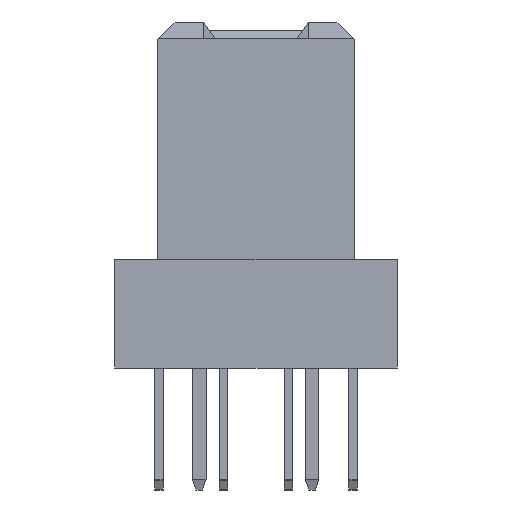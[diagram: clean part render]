
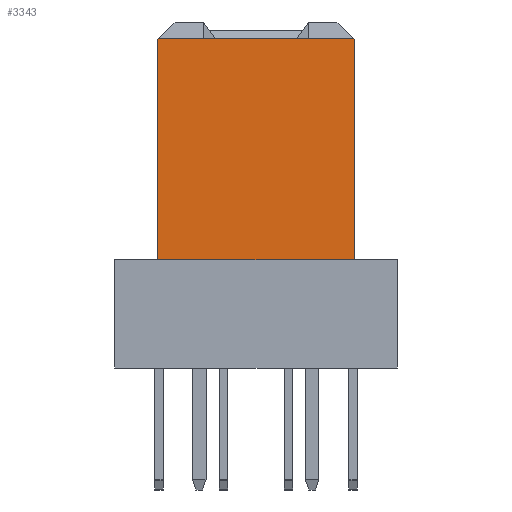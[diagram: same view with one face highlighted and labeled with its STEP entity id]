
A CAD part, left-side view. The second image highlights one B-rep face of the part: STEP entity #3343.
In plain terms, the highlighted planar face has unit normal (-1, 0, 0).
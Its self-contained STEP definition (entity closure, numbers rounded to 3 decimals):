
#426 = VERTEX_POINT ( 'NONE', #3674 ) ;
#442 = DIRECTION ( 'NONE',  ( 0., -1., 0. ) ) ;
#1439 = DIRECTION ( 'NONE',  ( 0., -1., 0. ) ) ;
#2313 = CARTESIAN_POINT ( 'NONE',  ( -48.201, 16.659, -1.905 ) ) ;
#3343 = ADVANCED_FACE ( 'NONE', ( #6019 ), #23150, .F. ) ;
#3674 = CARTESIAN_POINT ( 'NONE',  ( -48.201, 22.449, 4.605 ) ) ;
#3906 = CARTESIAN_POINT ( 'NONE',  ( -48.201, 23.724, -1.905 ) ) ;
#5204 = CARTESIAN_POINT ( 'NONE',  ( -48.201, 16.659, 4.595 ) ) ;
#5470 = LINE ( 'NONE', #24544, #6344 ) ;
#6019 = FACE_OUTER_BOUND ( 'NONE', #19088, .T. ) ;
#6204 = ORIENTED_EDGE ( 'NONE', *, *, #25377, .F. ) ;
#6344 = VECTOR ( 'NONE', #7698, 1000. ) ;
#6747 = ORIENTED_EDGE ( 'NONE', *, *, #17330, .F. ) ;
#7438 = CARTESIAN_POINT ( 'NONE',  ( -48.201, 22.459, 4.595 ) ) ;
#7492 = DIRECTION ( 'NONE',  ( 0., 0.707, -0.707 ) ) ;
#7698 = DIRECTION ( 'NONE',  ( 0., 0., 1. ) ) ;
#8399 = VERTEX_POINT ( 'NONE', #12623 ) ;
#8975 = CARTESIAN_POINT ( 'NONE',  ( -48.201, 23.724, -1.905 ) ) ;
#9065 = EDGE_CURVE ( 'NONE', #426, #10142, #27658, .T. ) ;
#10142 = VERTEX_POINT ( 'NONE', #11266 ) ;
#10178 = DIRECTION ( 'NONE',  ( 0., 0.707, 0.707 ) ) ;
#10348 = DIRECTION ( 'NONE',  ( 0., -1., 0. ) ) ;
#10559 = ORIENTED_EDGE ( 'NONE', *, *, #13262, .T. ) ;
#11266 = CARTESIAN_POINT ( 'NONE',  ( -48.201, 21.109, 4.605 ) ) ;
#11552 = EDGE_CURVE ( 'NONE', #24325, #17599, #17808, .T. ) ;
#12496 = ORIENTED_EDGE ( 'NONE', *, *, #22777, .F. ) ;
#12623 = CARTESIAN_POINT ( 'NONE',  ( -48.201, 18.009, 4.605 ) ) ;
#13036 = VECTOR ( 'NONE', #15063, 1000. ) ;
#13262 = EDGE_CURVE ( 'NONE', #426, #21785, #22258, .T. ) ;
#14697 = DIRECTION ( 'NONE',  ( 0., 1., 0. ) ) ;
#15063 = DIRECTION ( 'NONE',  ( 0., 0., -1. ) ) ;
#16224 = LINE ( 'NONE', #23102, #25613 ) ;
#16585 = VECTOR ( 'NONE', #7492, 1000. ) ;
#16724 = CARTESIAN_POINT ( 'NONE',  ( -48.201, 22.459, -1.905 ) ) ;
#17200 = AXIS2_PLACEMENT_3D ( 'NONE', #3906, #25525, #14697 ) ;
#17254 = CARTESIAN_POINT ( 'NONE',  ( -48.201, 16.669, 4.605 ) ) ;
#17330 = EDGE_CURVE ( 'NONE', #24325, #21785, #5470, .T. ) ;
#17599 = VERTEX_POINT ( 'NONE', #19465 ) ;
#17808 = LINE ( 'NONE', #8975, #26463 ) ;
#18517 = VECTOR ( 'NONE', #1439, 1000. ) ;
#18972 = CARTESIAN_POINT ( 'NONE',  ( -48.201, 23.724, 4.605 ) ) ;
#19088 = EDGE_LOOP ( 'NONE', ( #12496, #23619, #6204, #23051, #21477, #10559, #6747, #20289 ) ) ;
#19174 = LINE ( 'NONE', #27477, #26424 ) ;
#19465 = CARTESIAN_POINT ( 'NONE',  ( -48.201, 16.659, -1.905 ) ) ;
#19819 = LINE ( 'NONE', #23893, #23773 ) ;
#20289 = ORIENTED_EDGE ( 'NONE', *, *, #11552, .T. ) ;
#21477 = ORIENTED_EDGE ( 'NONE', *, *, #9065, .F. ) ;
#21785 = VERTEX_POINT ( 'NONE', #7438 ) ;
#21886 = DIRECTION ( 'NONE',  ( 0., -1., 0. ) ) ;
#22258 = LINE ( 'NONE', #25049, #16585 ) ;
#22705 = EDGE_CURVE ( 'NONE', #24486, #27618, #16224, .T. ) ;
#22777 = EDGE_CURVE ( 'NONE', #24486, #17599, #25764, .T. ) ;
#23051 = ORIENTED_EDGE ( 'NONE', *, *, #24546, .F. ) ;
#23102 = CARTESIAN_POINT ( 'NONE',  ( -48.201, 16.909, 4.845 ) ) ;
#23150 = PLANE ( 'NONE',  #17200 ) ;
#23619 = ORIENTED_EDGE ( 'NONE', *, *, #22705, .T. ) ;
#23773 = VECTOR ( 'NONE', #442, 1000. ) ;
#23893 = CARTESIAN_POINT ( 'NONE',  ( -48.201, 23.724, 4.605 ) ) ;
#24325 = VERTEX_POINT ( 'NONE', #16724 ) ;
#24486 = VERTEX_POINT ( 'NONE', #5204 ) ;
#24544 = CARTESIAN_POINT ( 'NONE',  ( -48.201, 22.459, -1.905 ) ) ;
#24546 = EDGE_CURVE ( 'NONE', #10142, #8399, #19174, .T. ) ;
#25049 = CARTESIAN_POINT ( 'NONE',  ( -48.201, 22.209, 4.845 ) ) ;
#25377 = EDGE_CURVE ( 'NONE', #8399, #27618, #19819, .T. ) ;
#25525 = DIRECTION ( 'NONE',  ( 1., 0., 0. ) ) ;
#25613 = VECTOR ( 'NONE', #10178, 1000. ) ;
#25764 = LINE ( 'NONE', #2313, #13036 ) ;
#26424 = VECTOR ( 'NONE', #10348, 1000. ) ;
#26463 = VECTOR ( 'NONE', #21886, 1000. ) ;
#27477 = CARTESIAN_POINT ( 'NONE',  ( -48.201, 23.724, 4.605 ) ) ;
#27618 = VERTEX_POINT ( 'NONE', #17254 ) ;
#27658 = LINE ( 'NONE', #18972, #18517 ) ;
